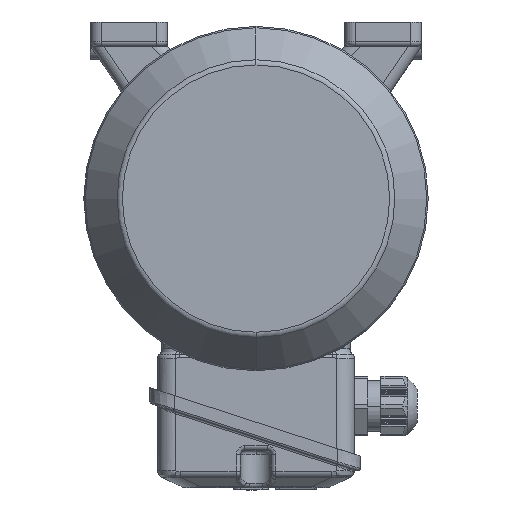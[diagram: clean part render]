
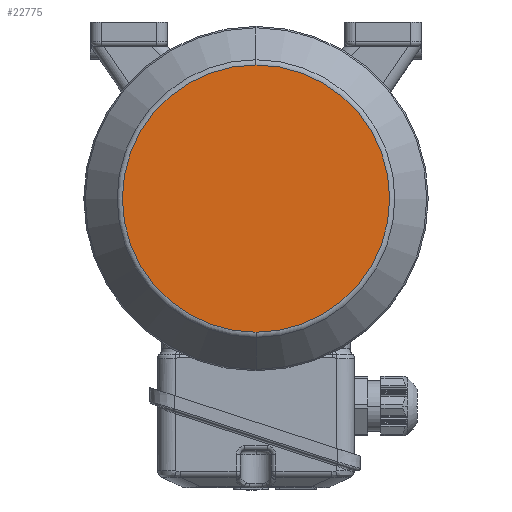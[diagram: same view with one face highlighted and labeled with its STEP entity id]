
A CAD part, left-side view. The second image highlights one B-rep face of the part: STEP entity #22775.
In plain terms, the highlighted planar face has unit normal (-1, 0, 0).
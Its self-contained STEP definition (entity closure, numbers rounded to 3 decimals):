
#1964 = DIRECTION ( 'NONE',  ( 1., 0., 0. ) ) ;
#2680 = CARTESIAN_POINT ( 'NONE',  ( -164.65, 0., -60.537 ) ) ;
#3483 = CARTESIAN_POINT ( 'NONE',  ( -164.65, 0., -60.537 ) ) ;
#3769 = CIRCLE ( 'NONE', #4328, 60.537 ) ;
#4200 = CARTESIAN_POINT ( 'NONE',  ( -164.65, 0., 0. ) ) ;
#4328 = AXIS2_PLACEMENT_3D ( 'NONE', #4200, #26719, #27188 ) ;
#7313 = AXIS2_PLACEMENT_3D ( 'NONE', #2680, #14071, #10297 ) ;
#7400 = EDGE_CURVE ( 'NONE', #32199, #20646, #24311, .T. ) ;
#7749 = EDGE_LOOP ( 'NONE', ( #33970, #15449 ) ) ;
#10297 = DIRECTION ( 'NONE',  ( 0., 1., 0. ) ) ;
#14071 = DIRECTION ( 'NONE',  ( -1., 0., 0. ) ) ;
#15449 = ORIENTED_EDGE ( 'NONE', *, *, #7400, .F. ) ;
#20646 = VERTEX_POINT ( 'NONE', #3483 ) ;
#22775 = ADVANCED_FACE ( 'NONE', ( #24324 ), #44061, .T. ) ;
#23752 = CARTESIAN_POINT ( 'NONE',  ( -164.65, 0., 60.537 ) ) ;
#24296 = DIRECTION ( 'NONE',  ( 0., 0., -1. ) ) ;
#24311 = CIRCLE ( 'NONE', #39118, 60.537 ) ;
#24324 = FACE_OUTER_BOUND ( 'NONE', #7749, .T. ) ;
#26719 = DIRECTION ( 'NONE',  ( 1., 0., 0. ) ) ;
#27188 = DIRECTION ( 'NONE',  ( 0., 0., -1. ) ) ;
#29810 = EDGE_CURVE ( 'NONE', #20646, #32199, #3769, .T. ) ;
#32199 = VERTEX_POINT ( 'NONE', #23752 ) ;
#33970 = ORIENTED_EDGE ( 'NONE', *, *, #29810, .F. ) ;
#39118 = AXIS2_PLACEMENT_3D ( 'NONE', #43838, #1964, #24296 ) ;
#43838 = CARTESIAN_POINT ( 'NONE',  ( -164.65, 0., 0. ) ) ;
#44061 = PLANE ( 'NONE',  #7313 ) ;
